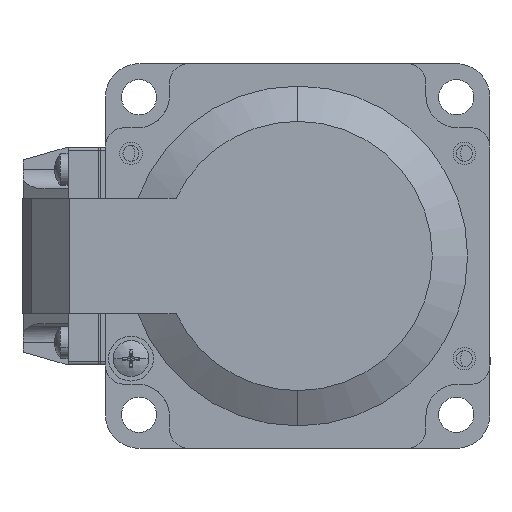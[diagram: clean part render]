
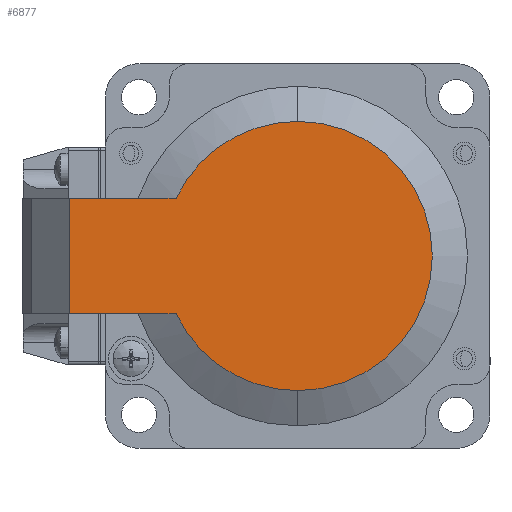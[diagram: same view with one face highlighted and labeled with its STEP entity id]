
A CAD part, front view. The second image highlights one B-rep face of the part: STEP entity #6877.
In plain terms, the highlighted planar face has unit normal (0, -1, 0).
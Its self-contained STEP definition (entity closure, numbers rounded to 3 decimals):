
#369 = DIRECTION ( 'NONE',  ( 0., -1., 0. ) ) ;
#484 = CARTESIAN_POINT ( 'NONE',  ( -18.974, -105., 9. ) ) ;
#804 = DIRECTION ( 'NONE',  ( 0., 0., -1. ) ) ;
#1529 = AXIS2_PLACEMENT_3D ( 'NONE', #6115, #20188, #13054 ) ;
#1822 = VECTOR ( 'NONE', #19453, 1000. ) ;
#2071 = CIRCLE ( 'NONE', #22744, 21. ) ;
#2757 = AXIS2_PLACEMENT_3D ( 'NONE', #5777, #16417, #5701 ) ;
#2871 = VERTEX_POINT ( 'NONE', #14803 ) ;
#3012 = VERTEX_POINT ( 'NONE', #4930 ) ;
#3552 = EDGE_CURVE ( 'NONE', #11496, #14568, #16485, .T. ) ;
#4142 = VECTOR ( 'NONE', #5127, 1000. ) ;
#4930 = CARTESIAN_POINT ( 'NONE',  ( -35.583, -105., -9. ) ) ;
#4976 = CARTESIAN_POINT ( 'NONE',  ( -35.583, -105., 9. ) ) ;
#5038 = ORIENTED_EDGE ( 'NONE', *, *, #13672, .F. ) ;
#5127 = DIRECTION ( 'NONE',  ( -1., 0., 0. ) ) ;
#5196 = CIRCLE ( 'NONE', #2757, 21. ) ;
#5701 = DIRECTION ( 'NONE',  ( 0., 0., -1. ) ) ;
#5743 = DIRECTION ( 'NONE',  ( 0., 0., 1. ) ) ;
#5777 = CARTESIAN_POINT ( 'NONE',  ( 0., -105., 0. ) ) ;
#6115 = CARTESIAN_POINT ( 'NONE',  ( 0., -105., -21. ) ) ;
#6311 = CARTESIAN_POINT ( 'NONE',  ( 0., -105., 0. ) ) ;
#6499 = EDGE_CURVE ( 'NONE', #12461, #2871, #2071, .T. ) ;
#6877 = ADVANCED_FACE ( 'NONE', ( #11895 ), #16684, .T. ) ;
#8681 = CARTESIAN_POINT ( 'NONE',  ( -35.583, -105., -9. ) ) ;
#9026 = VECTOR ( 'NONE', #5743, 1000. ) ;
#9352 = CARTESIAN_POINT ( 'NONE',  ( -35.583, -105., -9. ) ) ;
#9897 = ORIENTED_EDGE ( 'NONE', *, *, #16151, .T. ) ;
#10222 = LINE ( 'NONE', #8681, #1822 ) ;
#10740 = CARTESIAN_POINT ( 'NONE',  ( -35.583, -105., 9. ) ) ;
#10985 = CARTESIAN_POINT ( 'NONE',  ( 0., -105., 0. ) ) ;
#11191 = ORIENTED_EDGE ( 'NONE', *, *, #6499, .T. ) ;
#11496 = VERTEX_POINT ( 'NONE', #484 ) ;
#11895 = FACE_OUTER_BOUND ( 'NONE', #18888, .T. ) ;
#12321 = CARTESIAN_POINT ( 'NONE',  ( -18.974, -105., -9. ) ) ;
#12461 = VERTEX_POINT ( 'NONE', #21337 ) ;
#12885 = DIRECTION ( 'NONE',  ( 0., 0., -1. ) ) ;
#13054 = DIRECTION ( 'NONE',  ( 0., 0., -1. ) ) ;
#13672 = EDGE_CURVE ( 'NONE', #3012, #14568, #22717, .T. ) ;
#14568 = VERTEX_POINT ( 'NONE', #10740 ) ;
#14803 = CARTESIAN_POINT ( 'NONE',  ( 0., -105., 21. ) ) ;
#15994 = ORIENTED_EDGE ( 'NONE', *, *, #19438, .F. ) ;
#16151 = EDGE_CURVE ( 'NONE', #2871, #11496, #17724, .T. ) ;
#16417 = DIRECTION ( 'NONE',  ( 0., -1., 0. ) ) ;
#16485 = LINE ( 'NONE', #4976, #4142 ) ;
#16663 = ORIENTED_EDGE ( 'NONE', *, *, #3552, .T. ) ;
#16684 = PLANE ( 'NONE',  #1529 ) ;
#17629 = AXIS2_PLACEMENT_3D ( 'NONE', #10985, #369, #12885 ) ;
#17724 = CIRCLE ( 'NONE', #17629, 21. ) ;
#18097 = VERTEX_POINT ( 'NONE', #12321 ) ;
#18888 = EDGE_LOOP ( 'NONE', ( #15994, #22072, #11191, #9897, #16663, #5038 ) ) ;
#19059 = EDGE_CURVE ( 'NONE', #18097, #12461, #5196, .T. ) ;
#19438 = EDGE_CURVE ( 'NONE', #18097, #3012, #10222, .T. ) ;
#19453 = DIRECTION ( 'NONE',  ( -1., 0., 0. ) ) ;
#20188 = DIRECTION ( 'NONE',  ( 0., -1., 0. ) ) ;
#21337 = CARTESIAN_POINT ( 'NONE',  ( 0., -105., -21. ) ) ;
#22072 = ORIENTED_EDGE ( 'NONE', *, *, #19059, .T. ) ;
#22334 = DIRECTION ( 'NONE',  ( 0., -1., 0. ) ) ;
#22717 = LINE ( 'NONE', #9352, #9026 ) ;
#22744 = AXIS2_PLACEMENT_3D ( 'NONE', #6311, #22334, #804 ) ;
